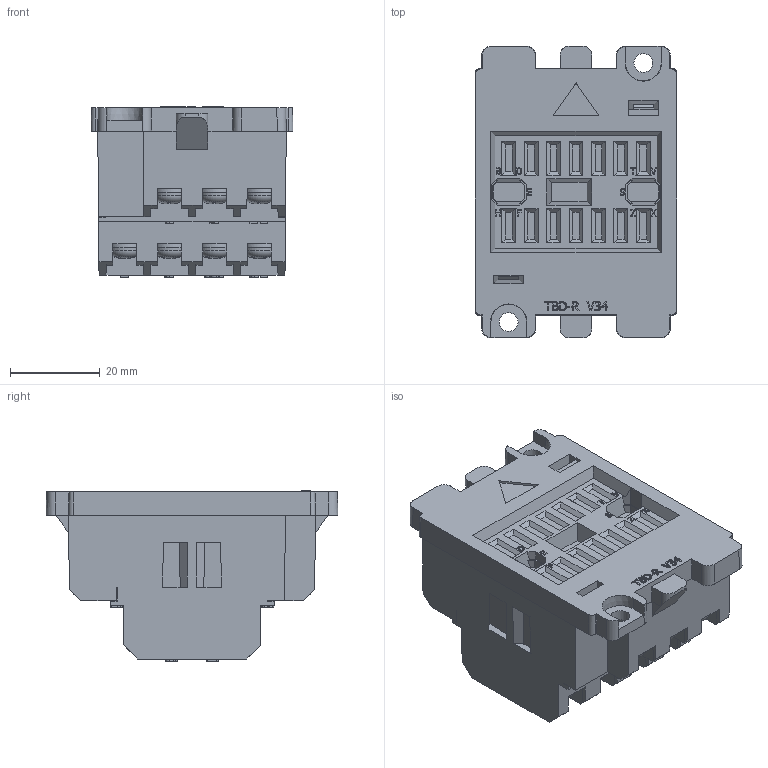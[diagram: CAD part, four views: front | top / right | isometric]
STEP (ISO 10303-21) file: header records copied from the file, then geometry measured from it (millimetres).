
FILE_DESCRIPTION(/* description */ (''),/* implementation_level */ '2;1');
FILE_NAME(/* name */ 'U:\M1 Attachments\CRs\CR1124 - Sales support\FU 153983 - 3D Model Step Files for Delta Enclosures\TBD-R.stp',/* time_stamp */ '2023-06-27T16:18:09+10:00',/* author */ ('sarah.rady'),/* organization */ (''),/* preprocessor_version */ 'ST-DEVELOPER v19',/* originating_system */ 'Autodesk Inventor 2023',/* authorisation */ '');
FILE_SCHEMA (('AUTOMOTIVE_DESIGN { 1 0 10303 214 3 1 1 }'));
Products named in the file (1): Part3
Bounding box: 45 x 65 x 38 mm (x, y, z)
Volume: 62375.9 mm3; surface area: 19167.3 mm2
Topology: 1 solids, 3 shells, 1576 faces, 4397 edges, 2907 vertices
Faces by surface type: plane 1030, bspline 246, cone 156, torus 70, cylinder 60, sphere 14
Full cylindrical faces by diameter (mm): 3.571 x14, 4.2 x2
Entity records: 54758 total; most frequent: CARTESIAN_POINT 14529, ORIENTED_EDGE 8766, DIRECTION 6811, EDGE_CURVE 4383, LINE 2961, VECTOR 2961, VERTEX_POINT 2907, AXIS2_PLACEMENT_3D 1925
